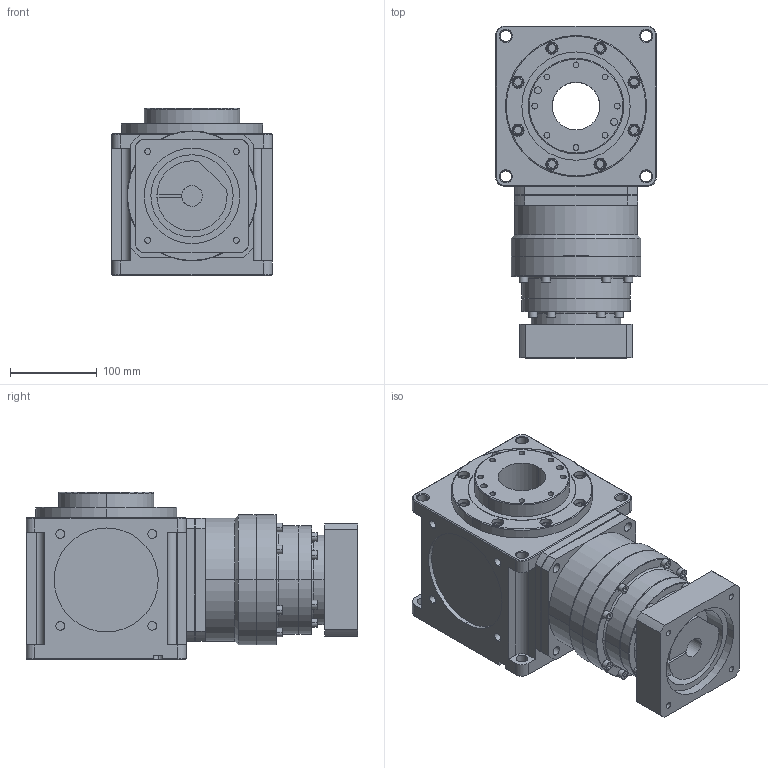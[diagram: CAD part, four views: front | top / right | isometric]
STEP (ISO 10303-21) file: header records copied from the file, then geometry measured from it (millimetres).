
FILE_DESCRIPTION (( 'STEP AP214' ), '1' );
FILE_NAME ('CCW185A-L2(24-200)-RF 24-110-145-M8.STEP', '2025-05-26T06:53:33', ( '微软用户' ), ( '微软中国' ), 'SwSTEP 2.0', 'SolidWorks 2024', '' );
FILE_SCHEMA (( 'AUTOMOTIVE_DESIGN' ));
Length unit declared in the file: millimetre
Products named in the file (3): VRB-142-L2-S2-P1 24-110-145-M8; CCW185A-002-RF箱体; CCW185A-L2(24-200)-RF 24-110-145-M8
Assembly tree (2 placements, depth 2):
  CCW185A-L2(24-200)-RF 24-110-145-M8
    VRB-142-L2-S2-P1 24-110-145-M8
    CCW185A-002-RF箱体
Bounding box: 185 x 383 x 193 mm (x, y, z)
Volume: 8133973.5 mm3; surface area: 454925.1 mm2
Topology: 2 solids, 2 shells, 651 faces, 1539 edges, 975 vertices
Faces by surface type: plane 342, cylinder 217, cone 62, torus 30
Entity records: 19048 total; most frequent: DIRECTION 3456, CARTESIAN_POINT 3399, ORIENTED_EDGE 3074, EDGE_CURVE 1537, AXIS2_PLACEMENT_3D 1292, VERTEX_POINT 975, LINE 872, VECTOR 872
